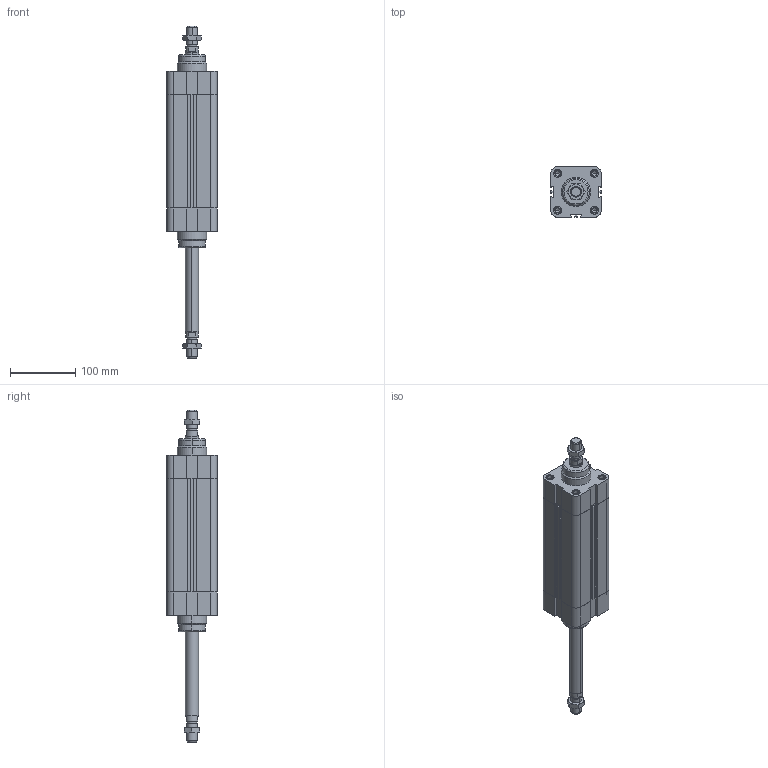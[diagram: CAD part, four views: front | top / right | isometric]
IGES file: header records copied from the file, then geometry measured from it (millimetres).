
Global section: file name: No Iges File Name specified; native system: Autodesk Inventor 2010; preprocessor: AutoDesk Inventor Iges Exporter R2010; author: rivolro1; date: 20090707.105756; units: millimetre
Bounding box: 77.5 x 77.5 x 509 mm (x, y, z)
Volume: 1181777.9 mm3; surface area: 217969 mm2
Topology: 6 solids, 6 shells, 343 faces, 810 edges, 508 vertices
Faces by surface type: plane 137, bspline 86, cylinder 58, cone 38, revolution 20, torus 4
